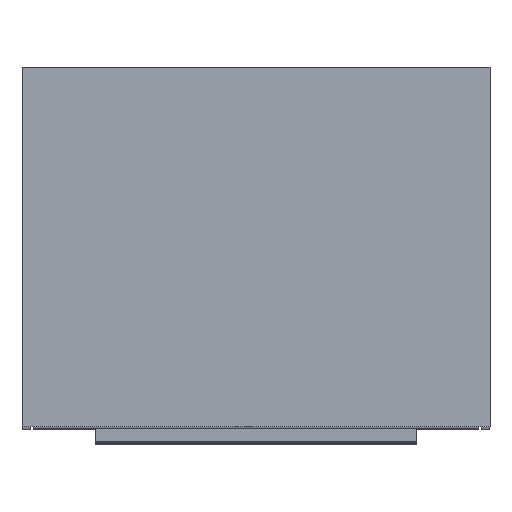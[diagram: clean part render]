
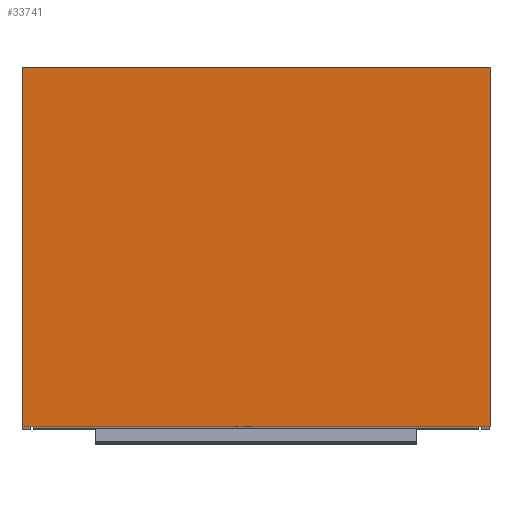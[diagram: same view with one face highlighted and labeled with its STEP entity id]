
A CAD part, top view. The second image highlights one B-rep face of the part: STEP entity #33741.
In plain terms, the highlighted planar face has unit normal (0, 0, 1).
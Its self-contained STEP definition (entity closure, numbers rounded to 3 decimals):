
#2102=PLANE('',#36755);
#4231=FACE_OUTER_BOUND('',#6374,.T.);
#6374=EDGE_LOOP('',(#31308,#31309,#31310,#31311));
#9666=LINE('',#59794,#12972);
#9669=LINE('',#59800,#12975);
#9672=LINE('',#59806,#12978);
#9675=LINE('',#59810,#12981);
#12972=VECTOR('',#45971,451.);
#12975=VECTOR('',#45976,346.5);
#12978=VECTOR('',#45981,451.);
#12981=VECTOR('',#45986,346.5);
#17058=VERTEX_POINT('',#59791);
#17059=VERTEX_POINT('',#59793);
#17061=VERTEX_POINT('',#59799);
#17063=VERTEX_POINT('',#59805);
#21806=EDGE_CURVE('',#17059,#17058,#9666,.T.);
#21809=EDGE_CURVE('',#17061,#17059,#9669,.T.);
#21812=EDGE_CURVE('',#17063,#17061,#9672,.T.);
#21815=EDGE_CURVE('',#17058,#17063,#9675,.T.);
#31308=ORIENTED_EDGE('',*,*,#21815,.T.);
#31309=ORIENTED_EDGE('',*,*,#21812,.T.);
#31310=ORIENTED_EDGE('',*,*,#21809,.T.);
#31311=ORIENTED_EDGE('',*,*,#21806,.T.);
#33741=ADVANCED_FACE('',(#4231),#2102,.T.);
#36755=AXIS2_PLACEMENT_3D('',#59811,#45987,#45988);
#45971=DIRECTION('',(-1.,0.,0.));
#45976=DIRECTION('',(0.,1.,0.));
#45981=DIRECTION('',(1.,0.,0.));
#45986=DIRECTION('',(0.,-1.,0.));
#45987=DIRECTION('center_axis',(0.,0.,1.));
#45988=DIRECTION('ref_axis',(1.,0.,0.));
#59791=CARTESIAN_POINT('',(-0.5,346.,1710.));
#59793=CARTESIAN_POINT('',(450.5,346.,1710.));
#59794=CARTESIAN_POINT('',(450.5,346.,1710.));
#59799=CARTESIAN_POINT('',(450.5,-0.5,1710.));
#59800=CARTESIAN_POINT('',(450.5,-0.5,1710.));
#59805=CARTESIAN_POINT('',(-0.5,-0.5,1710.));
#59806=CARTESIAN_POINT('',(-0.5,-0.5,1710.));
#59810=CARTESIAN_POINT('',(-0.5,346.,1710.));
#59811=CARTESIAN_POINT('Origin',(225.,172.75,1710.));
